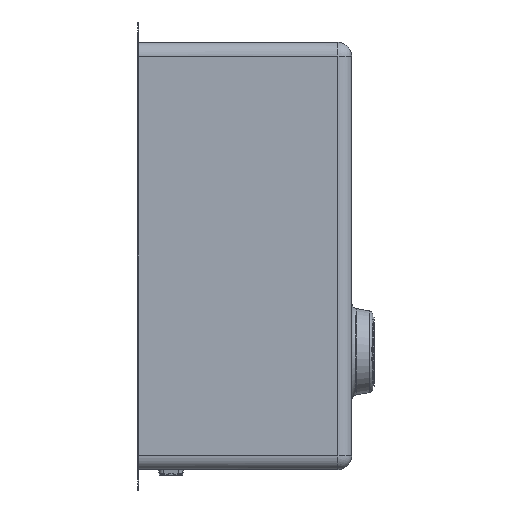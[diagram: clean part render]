
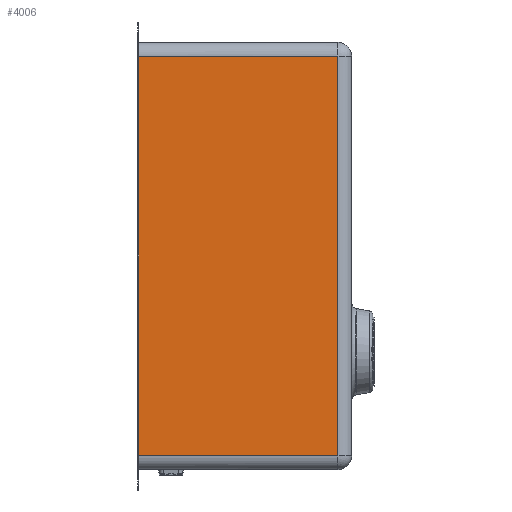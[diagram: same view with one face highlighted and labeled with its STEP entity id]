
A CAD part, left-side view. The second image highlights one B-rep face of the part: STEP entity #4006.
In plain terms, the highlighted planar face has unit normal (-1, 0, 0).
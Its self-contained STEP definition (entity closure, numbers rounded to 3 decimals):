
#2874=CARTESIAN_POINT('Vertex',(19.1,-0.9,32.)) ;
#2877=CARTESIAN_POINT('Line Origine',(19.1,-0.9,220.)) ;
#2881=CARTESIAN_POINT('Vertex',(19.1,-0.9,408.)) ;
#3968=CARTESIAN_POINT('Vertex',(19.1,-188.,32.)) ;
#3971=CARTESIAN_POINT('Line Origine',(19.1,-200.,32.)) ;
#3983=CARTESIAN_POINT('Axis2P3D Location',(19.1,-200.,20.)) ;
#3988=CARTESIAN_POINT('Line Origine',(19.1,-188.,220.)) ;
#3992=CARTESIAN_POINT('Vertex',(19.1,-188.,408.)) ;
#3995=CARTESIAN_POINT('Line Origine',(19.1,-94.45,408.)) ;
#2878=DIRECTION('Vector Direction',(0.,0.,1.)) ;
#3972=DIRECTION('Vector Direction',(0.,-1.,0.)) ;
#3984=DIRECTION('Axis2P3D Direction',(-1.,0.,0.)) ;
#3985=DIRECTION('Axis2P3D XDirection',(0.,0.,1.)) ;
#3989=DIRECTION('Vector Direction',(0.,0.,-1.)) ;
#3996=DIRECTION('Vector Direction',(0.,-1.,0.)) ;
#3986=AXIS2_PLACEMENT_3D('Plane Axis2P3D',#3983,#3984,#3985) ;
#4001=ORIENTED_EDGE('',*,*,#2883,.F.) ;
#4002=ORIENTED_EDGE('',*,*,#3975,.F.) ;
#4003=ORIENTED_EDGE('',*,*,#3994,.F.) ;
#4004=ORIENTED_EDGE('',*,*,#3999,.F.) ;
#2879=VECTOR('Line Direction',#2878,1.) ;
#3973=VECTOR('Line Direction',#3972,1.) ;
#3990=VECTOR('Line Direction',#3989,1.) ;
#3997=VECTOR('Line Direction',#3996,1.) ;
#4006=ADVANCED_FACE('Specchia5',(#4005),#3987,.T.) ;
#2883=EDGE_CURVE('',#2875,#2882,#2880,.T.) ;
#3975=EDGE_CURVE('',#3969,#2875,#3974,.F.) ;
#3994=EDGE_CURVE('',#3993,#3969,#3991,.T.) ;
#3999=EDGE_CURVE('',#2882,#3993,#3998,.T.) ;
#4000=EDGE_LOOP('',(#4001,#4002,#4003,#4004)) ;
#4005=FACE_OUTER_BOUND('',#4000,.T.) ;
#2880=LINE('Line',#2877,#2879) ;
#3974=LINE('Line',#3971,#3973) ;
#3991=LINE('Line',#3988,#3990) ;
#3998=LINE('Line',#3995,#3997) ;
#3987=PLANE('',#3986) ;
#2875=VERTEX_POINT('',#2874) ;
#2882=VERTEX_POINT('',#2881) ;
#3969=VERTEX_POINT('',#3968) ;
#3993=VERTEX_POINT('',#3992) ;
